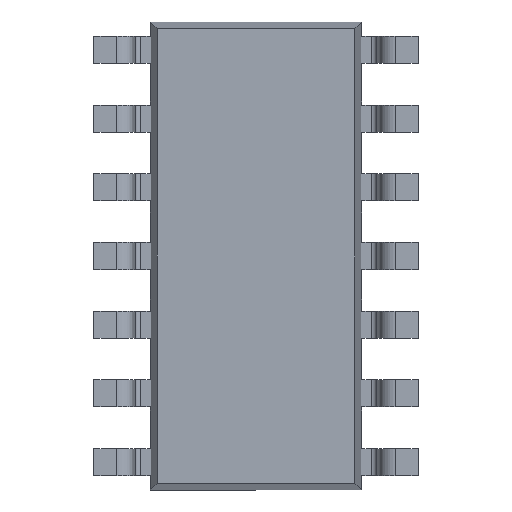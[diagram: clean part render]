
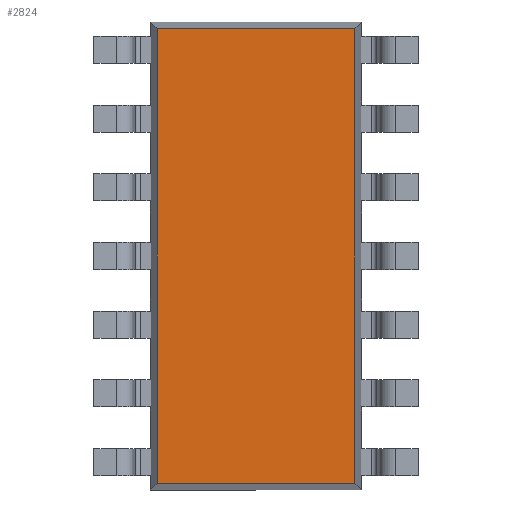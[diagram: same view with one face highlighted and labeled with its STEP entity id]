
A CAD part, front view. The second image highlights one B-rep face of the part: STEP entity #2824.
In plain terms, the highlighted planar face has unit normal (0, -1, 0).
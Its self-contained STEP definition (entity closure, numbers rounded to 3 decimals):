
#2461 = CARTESIAN_POINT ( 'NONE',  ( 1.827, 0.1, -4.202 ) ) ;
#2470 = CARTESIAN_POINT ( 'NONE',  ( 1.827, 0.1, 4.202 ) ) ;
#2475 = CARTESIAN_POINT ( 'NONE',  ( -1.827, 0.1, 4.202 ) ) ;
#2480 = CARTESIAN_POINT ( 'NONE',  ( -1.827, 0.1, -4.202 ) ) ;
#2668 = LINE ( 'NONE', #8665, #2683 ) ;
#2683 = VECTOR ( 'NONE', #8651, 1000. ) ;
#2824 = ADVANCED_FACE ( 'NONE', ( #7396 ), #9302, .F. ) ;
#3028 = EDGE_CURVE ( 'NONE', #6006, #6004, #2668, .T. ) ;
#3392 = EDGE_CURVE ( 'NONE', #6011, #6006, #6988, .T. ) ;
#3394 = EDGE_CURVE ( 'NONE', #6004, #6015, #6969, .T. ) ;
#3399 = EDGE_CURVE ( 'NONE', #6015, #6011, #6979, .T. ) ;
#5152 = ORIENTED_EDGE ( 'NONE', *, *, #3392, .T. ) ;
#5156 = ORIENTED_EDGE ( 'NONE', *, *, #3394, .T. ) ;
#5217 = ORIENTED_EDGE ( 'NONE', *, *, #3028, .T. ) ;
#5344 = EDGE_LOOP ( 'NONE', ( #5217, #5156, #5352, #5152 ) ) ;
#5352 = ORIENTED_EDGE ( 'NONE', *, *, #3399, .T. ) ;
#6004 = VERTEX_POINT ( 'NONE', #2480 ) ;
#6006 = VERTEX_POINT ( 'NONE', #2475 ) ;
#6011 = VERTEX_POINT ( 'NONE', #2470 ) ;
#6015 = VERTEX_POINT ( 'NONE', #2461 ) ;
#6947 = VECTOR ( 'NONE', #8339, 1000. ) ;
#6965 = VECTOR ( 'NONE', #8350, 1000. ) ;
#6969 = LINE ( 'NONE', #8352, #6965 ) ;
#6973 = VECTOR ( 'NONE', #8357, 1000. ) ;
#6979 = LINE ( 'NONE', #8349, #6947 ) ;
#6988 = LINE ( 'NONE', #8380, #6973 ) ;
#7396 = FACE_OUTER_BOUND ( 'NONE', #5344, .T. ) ;
#7611 = AXIS2_PLACEMENT_3D ( 'NONE', #9301, #9285, #9284 ) ;
#8339 = DIRECTION ( 'NONE',  ( 0., 0., 1. ) ) ;
#8349 = CARTESIAN_POINT ( 'NONE',  ( 1.827, 0.1, 4.325 ) ) ;
#8350 = DIRECTION ( 'NONE',  ( 1., 0., 0. ) ) ;
#8352 = CARTESIAN_POINT ( 'NONE',  ( 1.95, 0.1, -4.202 ) ) ;
#8357 = DIRECTION ( 'NONE',  ( -1., 0., 0. ) ) ;
#8380 = CARTESIAN_POINT ( 'NONE',  ( 1.95, 0.1, 4.202 ) ) ;
#8651 = DIRECTION ( 'NONE',  ( 0., 0., -1. ) ) ;
#8665 = CARTESIAN_POINT ( 'NONE',  ( -1.827, 0.1, 4.325 ) ) ;
#9284 = DIRECTION ( 'NONE',  ( 0., 0., 1. ) ) ;
#9285 = DIRECTION ( 'NONE',  ( 0., 1., 0. ) ) ;
#9301 = CARTESIAN_POINT ( 'NONE',  ( 0., 0.1, 0. ) ) ;
#9302 = PLANE ( 'NONE',  #7611 ) ;
